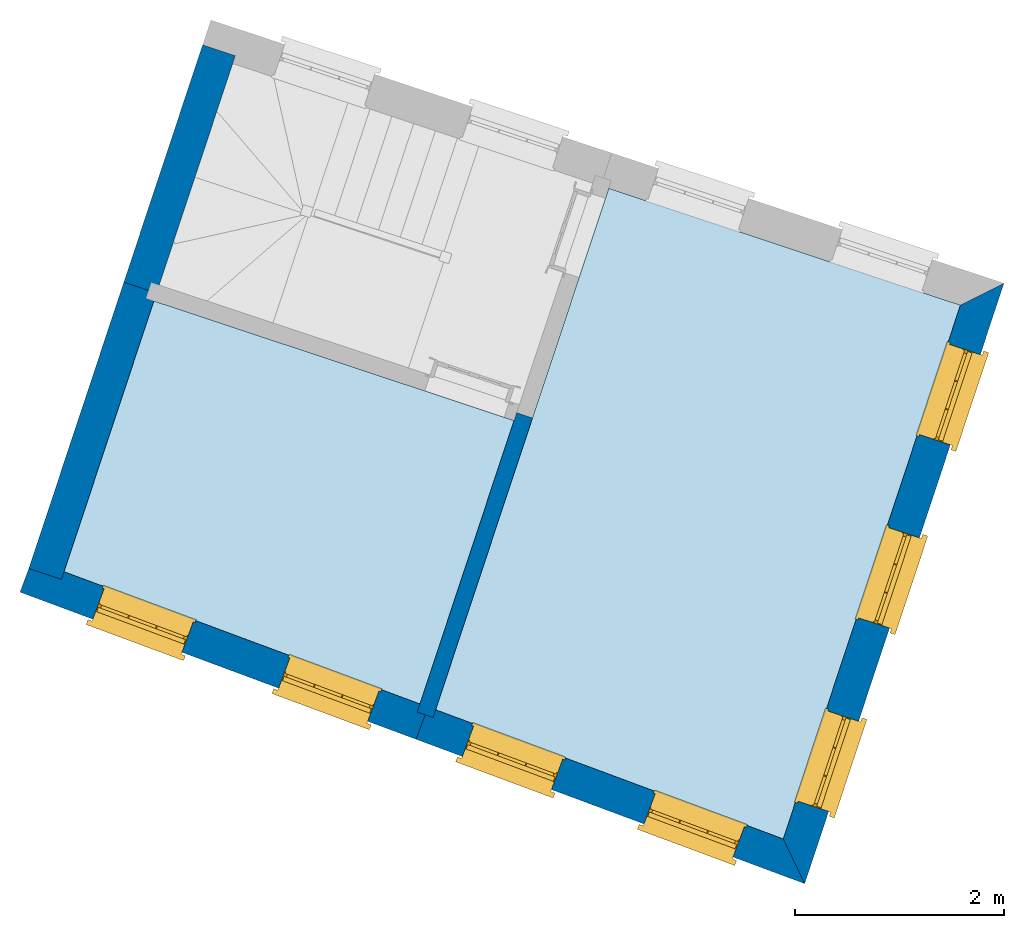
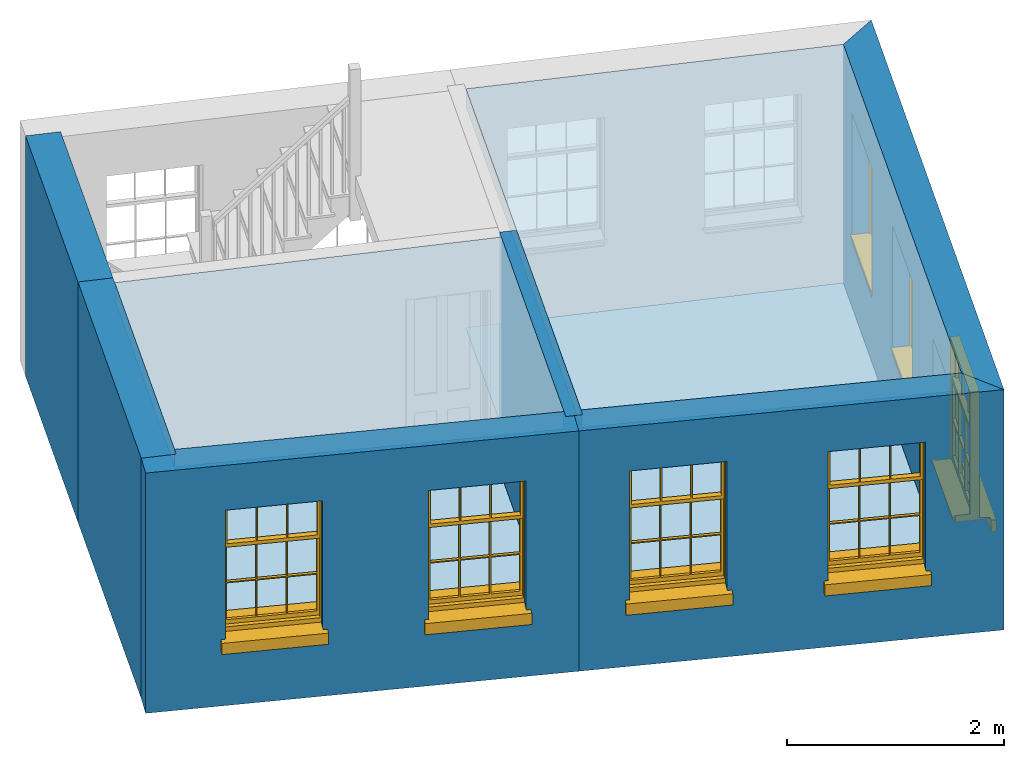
# One storey, part 1 of 3: 7 windows, 6 walls, 4 slabs, 7 openings.
"""IFC4 building model written with IfcOpenShell, lengths in metres."""

from ifc_helpers import new_model, si_unit, frame, origin, origin_with_axes, place, context, subcontext, project, spatial, polyline, outline, extrude, faceted_brep, source, transform, mapped, material, layer, layer_set, layer_usage, type_object, type_shapes, element, fill, save


model = new_model("IFC4")

# Units and contexts
model_context = context("Model", 3, world=origin_with_axes())
body_context = subcontext(model_context, "Body", "Model", "MODEL_VIEW")
ifc_project = project(units=[si_unit("PLANEANGLEUNIT", "RADIAN"), si_unit("MASSUNIT", "GRAM", prefix="KILO"), si_unit("FORCEUNIT", "NEWTON", prefix="KILO"), si_unit("LENGTHUNIT", "METRE"), si_unit("AREAUNIT", "SQUARE_METRE"), si_unit("VOLUMEUNIT", "CUBIC_METRE")], contexts=[model_context, model_context])

# Sites, building, storey
site_1_placement = place(None, origin_with_axes())
site_1 = spatial("IfcSite", under=ifc_project, at=site_1_placement, Name="Tamar")
site_2_placement = place(site_1_placement, origin_with_axes())
site_2 = spatial("IfcSite", under=site_1, at=site_2_placement, Name="Site plot-18", CompositionType="ELEMENT")
building_placement = place(None, origin_with_axes())
building = spatial("IfcBuilding", under=site_2, at=building_placement, Name="Building plot-18", CompositionType="ELEMENT")
storey_placement = place(None, frame((0.0, 0.0, 29.6), z_axis=(0.0, 0.0, 1.0), x_axis=(1.0, 0.0, 0.0)))
storey = spatial("IfcBuildingStorey", under=building, at=storey_placement, Name="plot-18 1", CompositionType="ELEMENT", Elevation=29.6)

# Slabs
slab_1_placement = place(storey_placement, frame((265.665997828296, 290.282959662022, 2.5)))
element("IfcSlab", 1, at=slab_1_placement, inside=storey, Name="My Slab", ObjectType="Slab", PredefinedType="FLOOR", context=body_context, shape_type="SweptSolid", body=[
    extrude(outline(polyline([(0.0, 0.0), (3.32752075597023, -1.23628445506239), (5.02376988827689, 3.87379940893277), (1.65685870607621, 4.99141710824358), (0.0, 0.0)])), origin_with_axes(), (0.0, 0.0, 1.0), 0.2),
])
slab_2_placement = place(storey_placement, frame((265.665997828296, 290.282959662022, 0.0)))
element("IfcSlab", 2, at=slab_2_placement, inside=storey, Name="My Slab", ObjectType="Slab", PredefinedType="FLOOR", context=body_context, shape_type="SweptSolid", body=[
    extrude(outline(polyline([(0.0, 0.0), (3.32752075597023, -1.23628445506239), (5.02376988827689, 3.87379940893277), (1.65685870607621, 4.99141710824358), (0.0, 0.0)])), origin_with_axes(), (0.0, 0.0, 1.0), 0.02),
])
slab_3_placement = place(storey_placement, frame((265.515921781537, 290.338717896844, 2.5)))
element("IfcSlab", 3, at=slab_3_placement, inside=storey, Name="My Slab", ObjectType="Slab", PredefinedType="FLOOR", context=body_context, shape_type="SweptSolid", body=[
    extrude(outline(polyline([(0.0, 0.0), (0.900667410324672, 2.71333138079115), (-2.54680739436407, 3.85769149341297), (-3.40714184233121, 1.26586633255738), (0.0, 0.0)])), origin_with_axes(), (0.0, 0.0, 1.0), 0.2),
])
slab_4_placement = place(storey_placement, frame((265.515921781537, 290.338717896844, 0.0)))
element("IfcSlab", 4, at=slab_4_placement, inside=storey, Name="My Slab", ObjectType="Slab", PredefinedType="FLOOR", context=body_context, shape_type="SweptSolid", body=[
    extrude(outline(polyline([(0.0, 0.0), (0.900667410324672, 2.71333138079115), (-2.54680739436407, 3.85769149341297), (-3.40714184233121, 1.26586633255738), (0.0, 0.0)])), origin_with_axes(), (0.0, 0.0, 1.0), 0.02),
])

# Wall, openings, windows
ifc_material_1 = material(Name="Masonry")
ifc_layer_1 = layer(ifc_material_1, 0.33, ventilated=False)
ifc_layer_set_1 = layer_set([ifc_layer_1], Name="exterior_0.08_0.25")
ifc_layer_usage_1 = layer_usage(ifc_layer_set_1, "AXIS2", "POSITIVE", -0.25)
wall_type_1 = type_object("IfcWallType", Name="exterior_0.08_0.25", PredefinedType="SOLIDWALL", material=ifc_layer_set_1)
wall_1_placement = place(storey_placement, frame((262.008523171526, 291.556489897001, 0.0), z_axis=(0.0, 0.0, 1.0), x_axis=(0.937393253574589, -0.348272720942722, 0.0)))
wall_1 = element("IfcWall", 5, at=wall_1_placement, inside=storey, type_object=wall_type_1, material=ifc_layer_usage_1, Name="exterior", context=body_context, shape_type="SweptSolid", body=[
    extrude(outline(polyline([(-0.249999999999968, 0.0800000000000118), (-0.250000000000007, -0.249999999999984), (3.79479783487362, -0.249999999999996), (3.79479783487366, 0.0800000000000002), (-0.249999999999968, 0.0800000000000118)])), origin_with_axes(), (0.0, 0.0, 1.0), 2.7),
])
opening_1_placement = place(wall_1_placement, frame((0.493699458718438, 0.0, 0.75)))
opening_1 = element("IfcOpeningElement", 6, at=opening_1_placement, cuts=wall_1, Name="My Opening", ObjectType="Opening", context=body_context, shape_type="SweptSolid", body=[
    extrude(outline(polyline([(0.0, -0.269999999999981), (0.909999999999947, -0.269999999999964), (0.90999999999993, 1.1), (-1.71529457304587e-14, 1.09999999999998), (0.0, -0.269999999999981)])), origin_with_axes(), (0.0, 0.0, 1.0), 1.445),
])
opening_2_placement = place(wall_1_placement, frame((2.39109837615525, 0.0, 0.75)))
opening_2 = element("IfcOpeningElement", 7, at=opening_2_placement, cuts=wall_1, Name="My Opening", ObjectType="Opening", context=body_context, shape_type="SweptSolid", body=[
    extrude(outline(polyline([(0.0, -0.269999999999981), (0.909999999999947, -0.269999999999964), (0.90999999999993, 1.1), (-1.68753899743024e-14, 1.09999999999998), (0.0, -0.269999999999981)])), origin_with_axes(), (0.0, 0.0, 1.0), 1.445),
])
window_type = type_object("IfcWindowType", Name="sash_shorter", PartitioningType="DOUBLE_PANEL_HORIZONTAL", PredefinedType="NOTDEFINED")
shared_shape = source(origin(), body_context, "Body", "Brep", [
    faceted_brep([(0.876875, 0.145, 0.999097), (0.876875, 0.145, 1.411875), (0.9, 0.145, 1.435), (0.033125, 0.145, 1.411875), (0.033125, 0.145, 0.999097), (0.01, 0.145, 1.435), (0.033125, 0.115, 1.411875), (0.01, 0.115, 1.435), (0.033125, 0.115, 0.999097), (0.876875, 0.115, 1.411875), (0.876875, 0.115, 0.999097), (0.9, 0.115, 1.435), (0.033125, 0.145, 0.960972), (0.01, 0.145, 0.960972), (0.033125, 0.145, 0.548195), (0.876875, 0.145, 0.960972), (0.876875, 0.145, 0.548195), (0.9, 0.145, 0.960972), (0.876875, 0.145, 0.538195), (0.876875, 0.145, 0.125417), (0.9, 0.145, 0.077167), (0.033125, 0.145, 0.125417), (0.033125, 0.145, 0.538195), (0.01, 0.145, 0.077167), (0.9, 0.115, 0.960972), (0.01, 0.115, 0.960972), (-0.0425, 0.0, 0.01), (-0.0425, -0.05, 0.001667), (0.0, 0.0, 0.01), (0.9525, 0.0, 0.01), (0.91, 0.0, 0.01), (0.9525, -0.05, 0.001667), (-0.02, 0.33, 0.077167), (0.0, 0.33, 0.077167), (-0.02, 0.36, 0.077167), (0.0, 0.19, 0.077167), (0.01, 0.19, 0.077167), (0.91, 0.19, 0.077167), (0.91, 0.33, 0.077167), (0.9, 0.19, 0.077167), (0.93, 0.33, 0.077167), (0.93, 0.36, 0.077167), (0.01, 0.145, 0.999097), (0.01, 0.175, 0.999097), (0.9, 0.145, 0.999097), (0.9, 0.175, 0.999097), (0.876875, 0.175, 0.125417), (0.876875, 0.175, 0.538195), (0.9, 0.175, 0.077167), (0.876875, 0.175, 0.548195), (0.876875, 0.175, 0.960972), (0.033125, 0.175, 0.125417), (0.01, 0.175, 0.077167), (0.033125, 0.175, 0.538195), (0.033125, 0.175, 0.960972), (0.033125, 0.175, 0.548195), (-0.02, 0.33, 0.052167), (-0.02, 0.36, 0.052167), (0.93, 0.36, 0.052167), (0.93, 0.33, 0.052167), (0.91, 0.33, 0.052167), (0.0, 0.33, 0.052167), (0.91, 0.1, 0.026667), (0.0, 0.1, 0.026667), (-0.0425, -0.05, -0.123333), (0.9525, -0.05, -0.123333), (-0.0425, 0.0, -0.123333), (0.9525, 0.0, -0.123333), (0.01, 0.19, 1.435), (0.9, 0.19, 1.435), (0.0, 0.19, 1.445), (0.91, 0.19, 1.445), (0.01, 0.1, 0.077167), (0.9, 0.1, 0.077167), (0.592292, 0.145, 0.125417), (0.592292, 0.175, 0.125417), (0.317708, 0.175, 0.125417), (0.317708, 0.145, 0.125417), (0.592292, 0.145, 0.548195), (0.317708, 0.145, 0.548195), (0.317708, 0.145, 0.538195), (0.592292, 0.145, 0.538195), (0.592292, 0.175, 0.548195), (0.317708, 0.175, 0.548195), (0.602292, 0.175, 0.548195), (0.602292, 0.145, 0.548195), (0.317708, 0.175, 0.538195), (0.307708, 0.175, 0.125417), (0.307708, 0.175, 0.538195), (0.602292, 0.175, 0.538195), (0.602292, 0.175, 0.125417), (0.592292, 0.175, 0.538195), (0.307708, 0.175, 0.548195), (0.317708, 0.175, 0.960972), (0.307708, 0.175, 0.960972), (0.602292, 0.175, 0.960972), (0.592292, 0.175, 0.960972), (0.307708, 0.145, 0.538195), (0.307708, 0.145, 0.125417), (0.307708, 0.145, 0.548195), (0.307708, 0.145, 0.960972), (0.592292, 0.145, 0.960972), (0.317708, 0.145, 0.960972), (0.602292, 0.145, 0.960972), (0.602292, 0.145, 0.538195), (0.602292, 0.145, 0.125417), (0.317708, 0.115, 1.411875), (0.307708, 0.115, 1.411875), (0.307708, 0.115, 0.999097), (0.317708, 0.115, 0.999097), (0.602292, 0.115, 1.411875), (0.592292, 0.115, 1.411875), (0.592292, 0.115, 0.999097), (0.602292, 0.115, 0.999097), (0.317708, 0.145, 0.999097), (0.307708, 0.145, 0.999097), (0.307708, 0.145, 1.411875), (0.317708, 0.145, 1.411875), (0.602292, 0.145, 0.999097), (0.592292, 0.145, 0.999097), (0.592292, 0.145, 1.411875), (0.602292, 0.145, 1.411875), (0.91, 0.1, 1.445), (0.9, 0.1, 1.435), (0.01, 0.1, 1.435), (0.0, 0.1, 1.445), (0.91, 0.0, 0.0), (0.0, 0.0, 0.0), (0.91, 0.33, 0.0), (0.0, 0.33, 0.0)], [[[0, 1, 2]], [[3, 4, 5]], [[6, 7, 8]], [[9, 10, 11]], [[12, 13, 14]], [[15, 16, 17]], [[18, 19, 20]], [[21, 22, 23]], [[24, 15, 17]], [[13, 12, 25]], [[26, 27, 28]], [[29, 30, 31]], [[32, 33, 34]], [[35, 36, 33]], [[37, 38, 39]], [[40, 41, 38]], [[42, 4, 43]], [[44, 45, 0]], [[46, 47, 48]], [[49, 50, 45]], [[51, 52, 53]], [[54, 55, 43]], [[38, 33, 36, 39]], [[41, 34, 33, 38]], [[56, 32, 34, 57]], [[57, 34, 41, 58]], [[58, 41, 40, 59]], [[57, 58, 60, 61]], [[52, 48, 39, 36]], [[62, 63, 28, 30]], [[27, 31, 30, 28]], [[27, 64, 65, 31]], [[66, 67, 65, 64]], [[2, 5, 68, 69]], [[68, 70, 71, 69]], [[20, 23, 72, 73]], [[73, 72, 63, 62]], [[74, 75, 76, 77]], [[78, 79, 80, 81]], [[78, 82, 83, 79]], [[16, 49, 84, 85]], [[86, 76, 87, 88]], [[89, 90, 75, 91]], [[92, 88, 53, 55]], [[82, 91, 86, 83]], [[93, 83, 92, 94]], [[95, 84, 82, 96]], [[89, 84, 49, 47]], [[97, 88, 87, 98]], [[22, 53, 88, 97]], [[81, 91, 75, 74]], [[80, 86, 91, 81]], [[77, 76, 86, 80]], [[99, 92, 55, 14]], [[100, 94, 92, 99]], [[101, 96, 82, 78]], [[79, 83, 93, 102]], [[85, 84, 95, 103]], [[104, 89, 47, 18]], [[105, 90, 89, 104]], [[104, 18, 16, 85]], [[80, 97, 98, 77]], [[104, 81, 74, 105]], [[103, 101, 78, 85]], [[99, 14, 22, 97]], [[102, 100, 99, 79]], [[106, 107, 108, 109]], [[110, 111, 112, 113]], [[114, 115, 116, 117]], [[118, 119, 120, 121]], [[107, 116, 115, 108]], [[111, 120, 119, 112]], [[109, 114, 117, 106]], [[113, 118, 121, 110]], [[85, 78, 81, 104]], [[84, 89, 91, 82]], [[83, 86, 88, 92]], [[79, 99, 97, 80]], [[109, 112, 119, 114]], [[102, 93, 96, 101]], [[106, 117, 120, 111]], [[98, 87, 51, 21]], [[6, 3, 116, 107]], [[110, 121, 1, 9]], [[19, 46, 90, 105]], [[26, 66, 64, 27]], [[29, 31, 65, 67]], [[25, 24, 112, 109]], [[11, 7, 106, 111]], [[75, 48, 52, 76]], [[43, 45, 96, 93]], [[45, 43, 114, 119]], [[5, 2, 120, 117]], [[24, 25, 102, 101]], [[42, 5, 4]], [[2, 44, 0]], [[49, 45, 48, 47]], [[52, 43, 55, 53]], [[14, 13, 23, 22]], [[20, 17, 16, 18]], [[24, 11, 10]], [[25, 8, 7]], [[8, 4, 3, 6]], [[9, 1, 0, 10]], [[15, 50, 49, 16]], [[18, 47, 46, 19]], [[21, 51, 53, 22]], [[14, 55, 54, 12]], [[44, 2, 69, 45]], [[68, 5, 42, 43]], [[36, 35, 70, 68]], [[39, 69, 71, 37]], [[62, 122, 123, 73]], [[63, 72, 124, 125]], [[8, 108, 115, 4]], [[113, 10, 0, 118]], [[94, 100, 12, 54]], [[17, 20, 73, 24]], [[72, 23, 13, 25]], [[52, 36, 68, 43]], [[69, 39, 48, 45]], [[11, 24, 73, 123]], [[7, 124, 72, 25]], [[23, 77, 98]], [[98, 21, 23]], [[105, 74, 20]], [[20, 19, 105]], [[20, 74, 77, 23]], [[113, 112, 24]], [[24, 10, 113]], [[25, 109, 108]], [[108, 8, 25]], [[110, 9, 11]], [[11, 111, 110]], [[7, 6, 107]], [[107, 106, 7]], [[5, 117, 116]], [[116, 3, 5]], [[121, 120, 2]], [[2, 1, 121]], [[11, 123, 124, 7]], [[122, 125, 124, 123]], [[43, 93, 94]], [[94, 54, 43]], [[96, 45, 95]], [[50, 95, 45]], [[15, 103, 95, 50]], [[48, 75, 90]], [[90, 46, 48]], [[87, 76, 52]], [[52, 51, 87]], [[103, 15, 24]], [[24, 101, 103]], [[100, 102, 25]], [[25, 12, 100]], [[115, 114, 43]], [[43, 4, 115]], [[118, 0, 45]], [[45, 119, 118]], [[71, 70, 125, 122]], [[70, 35, 63, 125]], [[122, 62, 37, 71]], [[126, 67, 66, 127]], [[60, 58, 59]], [[38, 60, 59, 40]], [[61, 56, 57]], [[32, 56, 61, 33]], [[61, 60, 128, 129]], [[62, 60, 38, 37]], [[126, 128, 60, 62]], [[33, 61, 63, 35]], [[61, 129, 127, 63]], [[128, 126, 127, 129]], [[28, 127, 66, 26]], [[63, 127, 28]], [[29, 67, 126, 30]], [[30, 126, 62]]]),
])
type_shapes(window_type, [shared_shape])
window_1_placement = place(storey_placement, frame((262.377280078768, 291.13145166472, 0.75), z_axis=(0.0, 0.0, 1.0), x_axis=(0.853027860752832, -0.316928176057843, 0.0)))
window_1 = element("IfcWindow", 8, at=window_1_placement, inside=storey, type_object=window_type, Name="toilet outside window", OverallHeight=1.445, OverallWidth=0.91, context=body_context, shape_type="MappedRepresentation", body=[
    mapped(shared_shape, transform((0.0, 0.0, 0.0), scale=1.0)),
])
fill(opening_1, window_1)
window_2_placement = place(storey_placement, frame((264.155889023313, 290.470639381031, 0.75), z_axis=(0.0, 0.0, 1.0), x_axis=(0.853027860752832, -0.316928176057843, 0.0)))
window_2 = element("IfcWindow", 9, at=window_2_placement, inside=storey, type_object=window_type, Name="toilet outside window", OverallHeight=1.445, OverallWidth=0.91, context=body_context, shape_type="MappedRepresentation", body=[
    mapped(shared_shape, transform((0.0, 0.0, 0.0), scale=1.0)),
])
fill(opening_2, window_2)

wall_2_placement = place(storey_placement, frame((265.565741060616, 290.234865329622, 0.0), z_axis=(0.0, 0.0, 1.0), x_axis=(0.937393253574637, -0.348272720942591, 0.0)))
wall_2 = element("IfcWall", 10, at=wall_2_placement, inside=storey, type_object=wall_type_1, material=ifc_layer_usage_1, Name="exterior", context=body_context, shape_type="SweptSolid", body=[
    extrude(outline(polyline([(3.85873691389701e-14, 0.0800000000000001), (-4.66752912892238e-14, -0.249999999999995), (3.96882548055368, -0.249999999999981), (3.62698973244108, 0.0799999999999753), (3.85873691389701e-14, 0.0800000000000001)])), origin_with_axes(), (0.0, 0.0, 1.0), 2.7),
])
opening_3_placement = place(wall_2_placement, frame((0.472464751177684, 0.0, 0.75)))
opening_3 = element("IfcOpeningElement", 11, at=opening_3_placement, cuts=wall_2, Name="My Opening", ObjectType="Opening", context=body_context, shape_type="SweptSolid", body=[
    extrude(outline(polyline([(0.0, -0.270000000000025), (0.910000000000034, -0.270000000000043), (0.910000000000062, 1.09999999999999), (2.81441536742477e-14, 1.10000000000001), (0.0, -0.270000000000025)])), origin_with_axes(), (0.0, 0.0, 1.0), 1.445),
])
opening_4_placement = place(wall_2_placement, frame((2.32739425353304, 0.0, 0.75)))
opening_4 = element("IfcOpeningElement", 12, at=opening_4_placement, cuts=wall_2, Name="My Opening", ObjectType="Opening", context=body_context, shape_type="SweptSolid", body=[
    extrude(outline(polyline([(0.0, -0.270000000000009), (0.910000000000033, -0.270000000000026), (0.910000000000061, 1.10000000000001), (2.79776202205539e-14, 1.10000000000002), (0.0, -0.270000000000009)])), origin_with_axes(), (0.0, 0.0, 1.0), 1.445),
])
window_3_placement = place(storey_placement, frame((265.914592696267, 289.817222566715, 0.75), z_axis=(0.0, 0.0, 1.0), x_axis=(0.853027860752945, -0.316928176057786, 0.0)))
window_3 = element("IfcWindow", 13, at=window_3_placement, inside=storey, type_object=window_type, Name="bedroom outside window", OverallHeight=1.445, OverallWidth=0.91, context=body_context, shape_type="MappedRepresentation", body=[
    mapped(shared_shape, transform((0.0, 0.0, 0.0), scale=1.0)),
])
fill(opening_3, window_3)
window_4_placement = place(storey_placement, frame((267.653391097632, 289.171201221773, 0.75), z_axis=(0.0, 0.0, 1.0), x_axis=(0.853027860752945, -0.316928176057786, 0.0)))
window_4 = element("IfcWindow", 14, at=window_4_placement, inside=storey, type_object=window_type, Name="bedroom outside window", OverallHeight=1.445, OverallWidth=0.91, context=body_context, shape_type="MappedRepresentation", body=[
    mapped(shared_shape, transform((0.0, 0.0, 0.0), scale=1.0)),
])
fill(opening_4, window_4)

wall_3_placement = place(storey_placement, frame((269.043337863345, 288.942822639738, 0.0), z_axis=(0.0, 0.0, 1.0), x_axis=(0.315038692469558, 0.949078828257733, 0.0)))
wall_3 = element("IfcWall", 15, at=wall_3_placement, inside=storey, type_object=wall_type_1, material=ifc_layer_usage_1, Name="exterior", context=body_context, shape_type="SweptSolid", body=[
    extrude(outline(polyline([(0.0828692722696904, 0.0799999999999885), (-0.258966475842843, -0.250000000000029), (5.79712578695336, -0.250000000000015), (5.46712578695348, 0.0800000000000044), (0.0828692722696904, 0.0799999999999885)])), origin_with_axes(), (0.0, 0.0, 1.0), 2.7),
])
opening_5_placement = place(wall_3_placement, frame((0.469520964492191, 0.0, 0.75)))
opening_5 = element("IfcOpeningElement", 16, at=opening_5_placement, cuts=wall_3, Name="My Opening", ObjectType="Opening", context=body_context, shape_type="SweptSolid", body=[
    extrude(outline(polyline([(0.0, -0.269999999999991), (0.910000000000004, -0.270000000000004), (0.909999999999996, 1.09999999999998), (-8.1601392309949e-15, 1.1), (0.0, -0.269999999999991)])), origin_with_axes(), (0.0, 0.0, 1.0), 1.445),
])
opening_6_placement = place(wall_3_placement, frame((2.31856289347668, 0.0, 0.75)))
opening_6 = element("IfcOpeningElement", 17, at=opening_6_placement, cuts=wall_3, Name="My Opening", ObjectType="Opening", context=body_context, shape_type="SweptSolid", body=[
    extrude(outline(polyline([(0.0, -0.270000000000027), (0.909999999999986, -0.269999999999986), (0.909999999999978, 1.1), (-7.99360577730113e-15, 1.09999999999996), (0.0, -0.270000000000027)])), origin_with_axes(), (0.0, 0.0, 1.0), 1.445),
])
opening_7_placement = place(wall_3_placement, frame((4.16760482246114, 0.0, 0.75)))
opening_7 = element("IfcOpeningElement", 18, at=opening_7_placement, cuts=wall_3, Name="My Opening", ObjectType="Opening", context=body_context, shape_type="SweptSolid", body=[
    extrude(outline(polyline([(0.0, -0.270000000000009), (0.910000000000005, -0.270000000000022), (0.909999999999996, 1.09999999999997), (-7.99360577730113e-15, 1.09999999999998), (0.0, -0.270000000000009)])), origin_with_axes(), (0.0, 0.0, 1.0), 1.445),
])
window_5_placement = place(storey_placement, frame((269.447506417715, 289.303374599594, 0.75), z_axis=(0.0, 0.0, 1.0), x_axis=(0.286685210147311, 0.863661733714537, 0.0)))
window_5 = element("IfcWindow", 19, at=window_5_placement, inside=storey, type_object=window_type, Name="bedroom outside window", OverallHeight=1.445, OverallWidth=0.91, context=body_context, shape_type="MappedRepresentation", body=[
    mapped(shared_shape, transform((0.0, 0.0, 0.0), scale=1.0)),
])
fill(opening_5, window_5)
window_6_placement = place(storey_placement, frame((270.030026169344, 291.058261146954, 0.75), z_axis=(0.0, 0.0, 1.0), x_axis=(0.286685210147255, 0.863661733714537, 0.0)))
window_6 = element("IfcWindow", 20, at=window_6_placement, inside=storey, type_object=window_type, Name="bedroom outside window", OverallHeight=1.445, OverallWidth=0.91, context=body_context, shape_type="MappedRepresentation", body=[
    mapped(shared_shape, transform((0.0, 0.0, 0.0), scale=1.0)),
])
fill(opening_6, window_6)
window_7_placement = place(storey_placement, frame((270.612545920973, 292.813147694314, 0.75), z_axis=(0.0, 0.0, 1.0), x_axis=(0.286685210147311, 0.863661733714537, 0.0)))
window_7 = element("IfcWindow", 21, at=window_7_placement, inside=storey, type_object=window_type, Name="bedroom outside window", OverallHeight=1.445, OverallWidth=0.91, context=body_context, shape_type="MappedRepresentation", body=[
    mapped(shared_shape, transform((0.0, 0.0, 0.0), scale=1.0)),
])
fill(opening_7, window_7)

# Walls
ifc_material_2 = material(Name="Masonry")
ifc_layer_2 = layer(ifc_material_2, 0.33, ventilated=False)
ifc_layer_set_2 = layer_set([ifc_layer_2], Name="party_0.08_0.25")
ifc_layer_usage_2 = layer_usage(ifc_layer_set_2, "AXIS2", "POSITIVE", -0.25)
wall_type_2 = type_object("IfcWallType", Name="party_0.08_0.25", PredefinedType="SOLIDWALL", material=ifc_layer_set_2)
wall_4_placement = place(storey_placement, frame((263.672805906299, 296.57027247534, 0.0), z_axis=(0.0, 0.0, 1.0), x_axis=(-0.315038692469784, -0.949078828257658, 0.0)))
element("IfcWall", 22, at=wall_4_placement, inside=storey, type_object=wall_type_2, material=ifc_layer_usage_2, Name="party", context=body_context, shape_type="SweptSolid", body=[
    extrude(outline(polyline([(-2.37468231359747e-14, 0.0799999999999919), (-3.15150258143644e-14, -0.249999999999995), (2.39467325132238, -0.249999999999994), (2.39467325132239, 0.0799999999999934), (-2.37468231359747e-14, 0.0799999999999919)])), origin_with_axes(), (0.0, 0.0, 1.0), 2.7),
])
wall_5_placement = place(storey_placement, frame((262.91839117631, 294.297538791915, 0.0), z_axis=(0.0, 0.0, 1.0), x_axis=(-0.315038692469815, -0.949078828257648, 0.0)))
element("IfcWall", 23, at=wall_5_placement, inside=storey, type_object=wall_type_2, material=ifc_layer_usage_2, Name="party", context=body_context, shape_type="SweptSolid", body=[
    extrude(outline(polyline([(-2.63047769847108e-14, 0.0799999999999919), (-2.35214200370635e-14, -0.249999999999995), (2.88811509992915, -0.249999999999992), (2.88811509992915, 0.0799999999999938), (-2.63047769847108e-14, 0.0799999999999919)])), origin_with_axes(), (0.0, 0.0, 1.0), 2.7),
])
ifc_material_3 = material(Name="Masonry")
ifc_layer_3 = layer(ifc_material_3, 0.16, ventilated=False)
ifc_layer_set_3 = layer_set([ifc_layer_3], Name="interior_0.08_0.08")
ifc_layer_usage_3 = layer_usage(ifc_layer_set_3, "AXIS2", "POSITIVE", -0.08)
wall_type_3 = type_object("IfcWallType", Name="interior_0.08_0.08", PredefinedType="SOLIDWALL", material=ifc_layer_set_3)
wall_6_placement = place(storey_placement, frame((266.51771859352, 293.102772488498, 0.0), z_axis=(0.0, 0.0, 1.0), x_axis=(-0.315038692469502, -0.949078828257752, 0.0)))
element("IfcWall", 24, at=wall_6_placement, inside=storey, type_object=wall_type_3, material=ifc_layer_usage_3, Name="interior", context=body_context, shape_type="SweptSolid", body=[
    extrude(outline(polyline([(1.27412785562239e-16, 0.0799999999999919), (-1.72737096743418e-16, -0.0799999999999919), (3.02177972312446, -0.0799999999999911), (3.02177972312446, 0.0799999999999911), (1.27412785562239e-16, 0.0799999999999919)])), origin_with_axes(), (0.0, 0.0, 1.0), 2.7),
])

save(model, "model.ifc")
